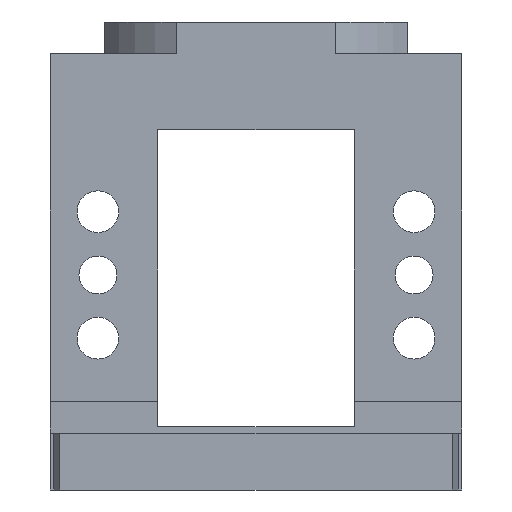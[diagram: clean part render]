
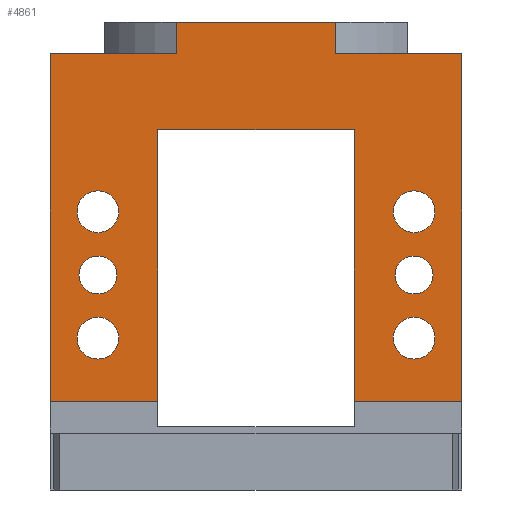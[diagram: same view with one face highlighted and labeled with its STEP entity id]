
A CAD part, front view. The second image highlights one B-rep face of the part: STEP entity #4861.
In plain terms, the highlighted planar face has unit normal (0, -1, 0).
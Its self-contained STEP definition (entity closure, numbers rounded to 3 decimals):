
#707=DIRECTION('',(-1.,0.,0.));
#708=VECTOR('',#707,17.);
#709=CARTESIAN_POINT('',(32.5,-25.,9.));
#710=LINE('',#709,#708);
#751=DIRECTION('',(0.,0.,1.));
#752=VECTOR('',#751,55.);
#753=CARTESIAN_POINT('',(-32.5,-25.,9.));
#754=LINE('',#753,#752);
#755=DIRECTION('',(-1.,0.,0.));
#756=VECTOR('',#755,17.);
#757=CARTESIAN_POINT('',(-15.5,-25.,9.));
#758=LINE('',#757,#756);
#763=CARTESIAN_POINT('',(-25.,-25.,29.));
#764=DIRECTION('',(0.,1.,0.));
#765=DIRECTION('',(0.,0.,-1.));
#766=AXIS2_PLACEMENT_3D('',#763,#764,#765);
#768=CARTESIAN_POINT('',(-25.,-25.,29.));
#769=DIRECTION('',(0.,1.,0.));
#770=DIRECTION('',(0.,0.,1.));
#771=AXIS2_PLACEMENT_3D('',#768,#769,#770);
#773=CARTESIAN_POINT('',(25.,-25.,29.));
#774=DIRECTION('',(0.,1.,0.));
#775=DIRECTION('',(0.,0.,-1.));
#776=AXIS2_PLACEMENT_3D('',#773,#774,#775);
#778=CARTESIAN_POINT('',(25.,-25.,29.));
#779=DIRECTION('',(0.,1.,0.));
#780=DIRECTION('',(0.,0.,1.));
#781=AXIS2_PLACEMENT_3D('',#778,#779,#780);
#783=CARTESIAN_POINT('',(-25.,-25.,19.));
#784=DIRECTION('',(0.,1.,0.));
#785=DIRECTION('',(-1.,0.,0.));
#786=AXIS2_PLACEMENT_3D('',#783,#784,#785);
#788=CARTESIAN_POINT('',(-25.,-25.,19.));
#789=DIRECTION('',(0.,1.,0.));
#790=DIRECTION('',(0.,0.,-1.));
#791=AXIS2_PLACEMENT_3D('',#788,#789,#790);
#793=CARTESIAN_POINT('',(-25.,-25.,19.));
#794=DIRECTION('',(0.,1.,0.));
#795=DIRECTION('',(0.,0.,1.));
#796=AXIS2_PLACEMENT_3D('',#793,#794,#795);
#798=CARTESIAN_POINT('',(25.,-25.,19.));
#799=DIRECTION('',(0.,1.,0.));
#800=DIRECTION('',(-1.,0.,0.));
#801=AXIS2_PLACEMENT_3D('',#798,#799,#800);
#803=CARTESIAN_POINT('',(25.,-25.,19.));
#804=DIRECTION('',(0.,1.,0.));
#805=DIRECTION('',(0.,0.,-1.));
#806=AXIS2_PLACEMENT_3D('',#803,#804,#805);
#808=CARTESIAN_POINT('',(25.,-25.,19.));
#809=DIRECTION('',(0.,1.,0.));
#810=DIRECTION('',(0.,0.,1.));
#811=AXIS2_PLACEMENT_3D('',#808,#809,#810);
#813=CARTESIAN_POINT('',(25.,-25.,39.));
#814=DIRECTION('',(0.,1.,0.));
#815=DIRECTION('',(-1.,0.,0.));
#816=AXIS2_PLACEMENT_3D('',#813,#814,#815);
#818=CARTESIAN_POINT('',(25.,-25.,39.));
#819=DIRECTION('',(0.,1.,0.));
#820=DIRECTION('',(0.,0.,-1.));
#821=AXIS2_PLACEMENT_3D('',#818,#819,#820);
#823=CARTESIAN_POINT('',(25.,-25.,39.));
#824=DIRECTION('',(0.,1.,0.));
#825=DIRECTION('',(0.,0.,1.));
#826=AXIS2_PLACEMENT_3D('',#823,#824,#825);
#828=CARTESIAN_POINT('',(-25.,-25.,39.));
#829=DIRECTION('',(0.,1.,0.));
#830=DIRECTION('',(-1.,0.,0.));
#831=AXIS2_PLACEMENT_3D('',#828,#829,#830);
#833=CARTESIAN_POINT('',(-25.,-25.,39.));
#834=DIRECTION('',(0.,1.,0.));
#835=DIRECTION('',(0.,0.,-1.));
#836=AXIS2_PLACEMENT_3D('',#833,#834,#835);
#838=CARTESIAN_POINT('',(-25.,-25.,39.));
#839=DIRECTION('',(0.,1.,0.));
#840=DIRECTION('',(0.,0.,1.));
#841=AXIS2_PLACEMENT_3D('',#838,#839,#840);
#843=DIRECTION('',(-1.,0.,0.));
#844=VECTOR('',#843,25.219);
#845=CARTESIAN_POINT('',(12.61,-25.,69.));
#846=LINE('',#845,#844);
#847=DIRECTION('',(0.,0.,1.));
#848=VECTOR('',#847,55.);
#849=CARTESIAN_POINT('',(32.5,-25.,9.));
#850=LINE('',#849,#848);
#851=DIRECTION('',(1.,0.,0.));
#852=VECTOR('',#851,31.);
#853=CARTESIAN_POINT('',(-15.5,-25.,52.));
#854=LINE('',#853,#852);
#855=DIRECTION('',(0.,0.,1.));
#856=VECTOR('',#855,43.);
#857=CARTESIAN_POINT('',(-15.5,-25.,9.));
#858=LINE('',#857,#856);
#859=DIRECTION('',(-1.,0.,0.));
#860=VECTOR('',#859,19.89);
#861=CARTESIAN_POINT('',(-12.61,-25.,64.));
#862=LINE('',#861,#860);
#1015=DIRECTION('',(0.,0.,1.));
#1016=VECTOR('',#1015,43.);
#1017=CARTESIAN_POINT('',(15.5,-25.,9.));
#1018=LINE('',#1017,#1016);
#2672=DIRECTION('',(1.,0.,0.));
#2673=VECTOR('',#2672,19.89);
#2674=CARTESIAN_POINT('',(12.61,-25.,64.));
#2675=LINE('',#2674,#2673);
#2695=DIRECTION('',(0.,0.,-1.));
#2696=VECTOR('',#2695,5.);
#2697=CARTESIAN_POINT('',(12.61,-25.,69.));
#2698=LINE('',#2697,#2696);
#2859=DIRECTION('',(0.,0.,1.));
#2860=VECTOR('',#2859,5.);
#2861=CARTESIAN_POINT('',(-12.61,-25.,64.));
#2862=LINE('',#2861,#2860);
#3022=CARTESIAN_POINT('',(12.61,-25.,64.));
#3023=VERTEX_POINT('',#3022);
#3024=CARTESIAN_POINT('',(32.5,-25.,64.));
#3025=VERTEX_POINT('',#3024);
#3034=CARTESIAN_POINT('',(15.5,-25.,52.));
#3035=VERTEX_POINT('',#3034);
#3036=CARTESIAN_POINT('',(-15.5,-25.,52.));
#3037=VERTEX_POINT('',#3036);
#3051=CARTESIAN_POINT('',(-12.61,-25.,69.));
#3052=VERTEX_POINT('',#3051);
#3053=CARTESIAN_POINT('',(12.61,-25.,69.));
#3054=VERTEX_POINT('',#3053);
#3061=CARTESIAN_POINT('',(-12.61,-25.,64.));
#3062=VERTEX_POINT('',#3061);
#3068=CARTESIAN_POINT('',(-32.5,-25.,64.));
#3069=VERTEX_POINT('',#3068);
#3070=CARTESIAN_POINT('',(-32.5,-25.,9.));
#3071=VERTEX_POINT('',#3070);
#3072=CARTESIAN_POINT('',(-15.5,-25.,9.));
#3073=VERTEX_POINT('',#3072);
#3074=CARTESIAN_POINT('',(15.5,-25.,9.));
#3075=VERTEX_POINT('',#3074);
#3076=CARTESIAN_POINT('',(32.5,-25.,9.));
#3077=VERTEX_POINT('',#3076);
#3438=CARTESIAN_POINT('',(-25.,-25.,32.));
#3440=VERTEX_POINT('',#3438);
#3442=CARTESIAN_POINT('',(-25.,-25.,26.));
#3444=VERTEX_POINT('',#3442);
#3446=CARTESIAN_POINT('',(25.,-25.,26.));
#3448=VERTEX_POINT('',#3446);
#3450=CARTESIAN_POINT('',(25.,-25.,32.));
#3452=VERTEX_POINT('',#3450);
#3575=CARTESIAN_POINT('',(25.,-25.,35.7));
#3577=VERTEX_POINT('',#3575);
#3579=CARTESIAN_POINT('',(25.,-25.,42.3));
#3581=VERTEX_POINT('',#3579);
#3583=CARTESIAN_POINT('',(21.7,-25.,39.));
#3584=VERTEX_POINT('',#3583);
#3593=CARTESIAN_POINT('',(25.,-25.,15.7));
#3595=VERTEX_POINT('',#3593);
#3597=CARTESIAN_POINT('',(25.,-25.,22.3));
#3599=VERTEX_POINT('',#3597);
#3601=CARTESIAN_POINT('',(21.7,-25.,19.));
#3602=VERTEX_POINT('',#3601);
#3611=CARTESIAN_POINT('',(-25.,-25.,15.7));
#3613=VERTEX_POINT('',#3611);
#3615=CARTESIAN_POINT('',(-25.,-25.,22.3));
#3617=VERTEX_POINT('',#3615);
#3619=CARTESIAN_POINT('',(-28.3,-25.,19.));
#3620=VERTEX_POINT('',#3619);
#3629=CARTESIAN_POINT('',(-25.,-25.,35.7));
#3631=VERTEX_POINT('',#3629);
#3633=CARTESIAN_POINT('',(-25.,-25.,42.3));
#3635=VERTEX_POINT('',#3633);
#3637=CARTESIAN_POINT('',(-28.3,-25.,39.));
#3638=VERTEX_POINT('',#3637);
#4792=CARTESIAN_POINT('',(32.5,-25.,64.));
#4793=DIRECTION('',(0.,1.,0.));
#4794=DIRECTION('',(1.,0.,0.));
#4795=AXIS2_PLACEMENT_3D('',#4792,#4793,#4794);
#4796=PLANE('',#4795);
#4798=ORIENTED_EDGE('',*,*,#4797,.T.);
#4799=ORIENTED_EDGE('',*,*,#3896,.F.);
#4801=ORIENTED_EDGE('',*,*,#4800,.T.);
#4803=ORIENTED_EDGE('',*,*,#4802,.T.);
#4804=ORIENTED_EDGE('',*,*,#4709,.F.);
#4805=ORIENTED_EDGE('',*,*,#4733,.T.);
#4807=ORIENTED_EDGE('',*,*,#4806,.T.);
#4808=ORIENTED_EDGE('',*,*,#4296,.F.);
#4810=ORIENTED_EDGE('',*,*,#4809,.F.);
#4811=ORIENTED_EDGE('',*,*,#4785,.T.);
#4812=ORIENTED_EDGE('',*,*,#4773,.T.);
#4814=ORIENTED_EDGE('',*,*,#4813,.F.);
#4815=EDGE_LOOP('',(#4798,#4799,#4801,#4803,#4804,#4805,#4807,#4808,#4810,#4811,
#4812,#4814));
#4816=FACE_OUTER_BOUND('',#4815,.F.);
#4818=ORIENTED_EDGE('',*,*,#4817,.F.);
#4820=ORIENTED_EDGE('',*,*,#4819,.F.);
#4821=EDGE_LOOP('',(#4818,#4820));
#4822=FACE_BOUND('',#4821,.F.);
#4824=ORIENTED_EDGE('',*,*,#4823,.F.);
#4826=ORIENTED_EDGE('',*,*,#4825,.F.);
#4828=ORIENTED_EDGE('',*,*,#4827,.F.);
#4829=EDGE_LOOP('',(#4824,#4826,#4828));
#4830=FACE_BOUND('',#4829,.F.);
#4832=ORIENTED_EDGE('',*,*,#4831,.F.);
#4834=ORIENTED_EDGE('',*,*,#4833,.F.);
#4836=ORIENTED_EDGE('',*,*,#4835,.F.);
#4837=EDGE_LOOP('',(#4832,#4834,#4836));
#4838=FACE_BOUND('',#4837,.F.);
#4840=ORIENTED_EDGE('',*,*,#4839,.F.);
#4842=ORIENTED_EDGE('',*,*,#4841,.F.);
#4844=ORIENTED_EDGE('',*,*,#4843,.F.);
#4845=EDGE_LOOP('',(#4840,#4842,#4844));
#4846=FACE_BOUND('',#4845,.F.);
#4848=ORIENTED_EDGE('',*,*,#4847,.F.);
#4850=ORIENTED_EDGE('',*,*,#4849,.F.);
#4852=ORIENTED_EDGE('',*,*,#4851,.F.);
#4853=EDGE_LOOP('',(#4848,#4850,#4852));
#4854=FACE_BOUND('',#4853,.F.);
#4856=ORIENTED_EDGE('',*,*,#4855,.F.);
#4858=ORIENTED_EDGE('',*,*,#4857,.F.);
#4859=EDGE_LOOP('',(#4856,#4858));
#4860=FACE_BOUND('',#4859,.F.);
#767=CIRCLE('',#766,3.);
#772=CIRCLE('',#771,3.);
#777=CIRCLE('',#776,3.);
#782=CIRCLE('',#781,3.);
#787=CIRCLE('',#786,3.3);
#792=CIRCLE('',#791,3.3);
#797=CIRCLE('',#796,3.3);
#802=CIRCLE('',#801,3.3);
#807=CIRCLE('',#806,3.3);
#812=CIRCLE('',#811,3.3);
#817=CIRCLE('',#816,3.3);
#822=CIRCLE('',#821,3.3);
#827=CIRCLE('',#826,3.3);
#832=CIRCLE('',#831,3.3);
#837=CIRCLE('',#836,3.3);
#842=CIRCLE('',#841,3.3);
#3896=EDGE_CURVE('',#3054,#3052,#846,.T.);
#4296=EDGE_CURVE('',#3037,#3035,#854,.T.);
#4709=EDGE_CURVE('',#3077,#3025,#850,.T.);
#4733=EDGE_CURVE('',#3077,#3075,#710,.T.);
#4773=EDGE_CURVE('',#3071,#3069,#754,.T.);
#4785=EDGE_CURVE('',#3073,#3071,#758,.T.);
#4797=EDGE_CURVE('',#3062,#3052,#2862,.T.);
#4800=EDGE_CURVE('',#3054,#3023,#2698,.T.);
#4802=EDGE_CURVE('',#3023,#3025,#2675,.T.);
#4806=EDGE_CURVE('',#3075,#3035,#1018,.T.);
#4809=EDGE_CURVE('',#3073,#3037,#858,.T.);
#4813=EDGE_CURVE('',#3062,#3069,#862,.T.);
#4817=EDGE_CURVE('',#3448,#3452,#777,.T.);
#4819=EDGE_CURVE('',#3452,#3448,#782,.T.);
#4823=EDGE_CURVE('',#3620,#3617,#787,.T.);
#4825=EDGE_CURVE('',#3613,#3620,#792,.T.);
#4827=EDGE_CURVE('',#3617,#3613,#797,.T.);
#4831=EDGE_CURVE('',#3602,#3599,#802,.T.);
#4833=EDGE_CURVE('',#3595,#3602,#807,.T.);
#4835=EDGE_CURVE('',#3599,#3595,#812,.T.);
#4839=EDGE_CURVE('',#3584,#3581,#817,.T.);
#4841=EDGE_CURVE('',#3577,#3584,#822,.T.);
#4843=EDGE_CURVE('',#3581,#3577,#827,.T.);
#4847=EDGE_CURVE('',#3638,#3635,#832,.T.);
#4849=EDGE_CURVE('',#3631,#3638,#837,.T.);
#4851=EDGE_CURVE('',#3635,#3631,#842,.T.);
#4855=EDGE_CURVE('',#3444,#3440,#767,.T.);
#4857=EDGE_CURVE('',#3440,#3444,#772,.T.);
#4861=ADVANCED_FACE('',(#4816,#4822,#4830,#4838,#4846,#4854,#4860),#4796,.F.);
